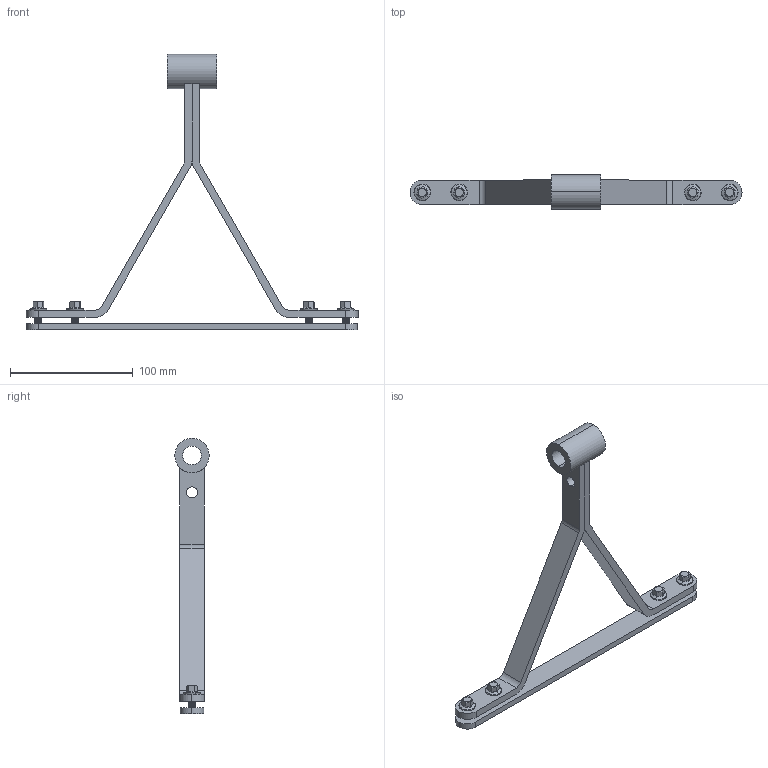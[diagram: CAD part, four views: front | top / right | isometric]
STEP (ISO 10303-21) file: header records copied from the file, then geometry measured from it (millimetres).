
FILE_DESCRIPTION (( 'STEP AP203' ), '1' );
FILE_NAME ('諉芛傷ァ奪盓殤.STEP', '2022-02-10T03:27:36', ( '' ), ( '' ), 'SwSTEP 2.0', 'SolidWorks 2017', '' );
FILE_SCHEMA (( 'CONFIG_CONTROL_DESIGN' ));
Length unit declared in the file: millimetre
Products named in the file (4): ァ詰盓殤嘐隅沭; 諉芛傷ァ奪盓殤; ァ奪盓殤假蚾諉芛; 鞠褒楊擘醱蹟邡M6X16_GB_FASTENER_BOLT_HFBSS M6X30-S
Assembly tree (6 placements, depth 2):
  諉芛傷ァ奪盓殤
    ァ詰盓殤嘐隅沭
    鞠褒楊擘醱蹟邡M6X16_GB_FASTENER_BOLT_HFBSS M6X30-S  x4
    ァ奪盓殤假蚾諉芛
Bounding box: 270 x 28 x 224 mm (x, y, z)
Volume: 106305.3 mm3; surface area: 51020 mm2
Topology: 8 solids, 8 shells, 687 faces, 1423 edges, 756 vertices
Faces by surface type: cone 378, cylinder 219, plane 58, bspline 24, torus 8
Entity records: 6707 total; most frequent: CARTESIAN_POINT 1228, DIRECTION 1145, ORIENTED_EDGE 974, EDGE_CURVE 487, AXIS2_PLACEMENT_3D 457, VERTEX_POINT 276, EDGE_LOOP 245, CIRCLE 232
